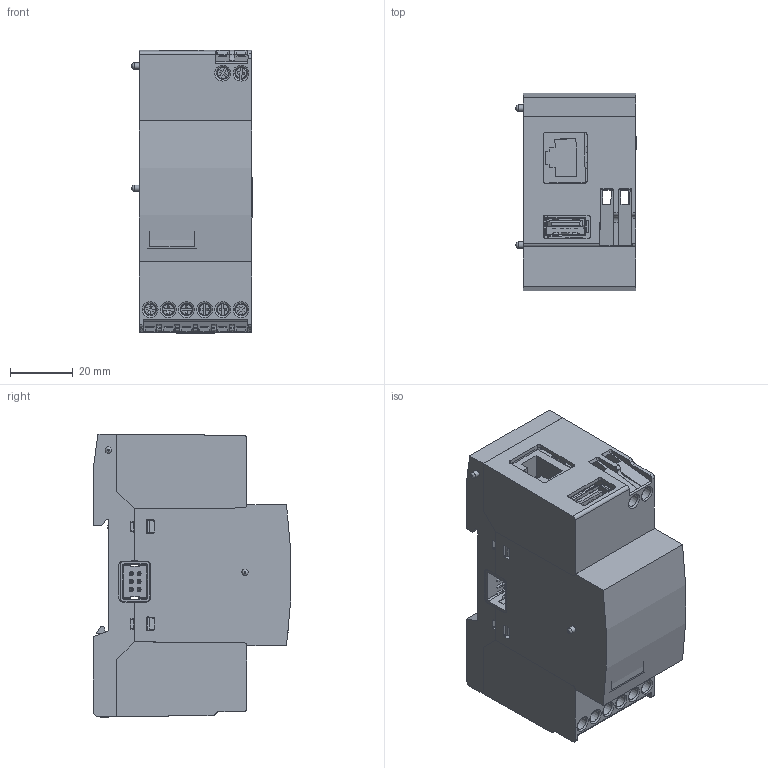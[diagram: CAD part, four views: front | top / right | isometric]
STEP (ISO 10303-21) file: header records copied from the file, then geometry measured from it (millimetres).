
FILE_DESCRIPTION(/* description */ (''),/* implementation_level */ '2;1');
FILE_NAME(/* name */ 'Z:\Meccanica\SH2WEB24\Shrinkwrap\SH2WEB24_Shrinkwrap_1.stp',/* time_stamp */ '2018-02-21T09:06:32+01:00',/* author */ ('ddecol'),/* organization */ (''),/* preprocessor_version */ 'ST-DEVELOPER v16.5',/* originating_system */ 'Autodesk Inventor 2017',/* authorisation */ '');
FILE_SCHEMA (('AUTOMOTIVE_DESIGN { 1 0 10303 214 3 1 1 }'));
Length unit declared in the file: millimetre
Products named in the file (1): SH2WEB24_Shrinkwrap_1
Bounding box: 38.34 x 63.01 x 90.42 mm (x, y, z)
Surface area: 32273.3 mm2 (no closed solid volume)
Topology: 0 solids, 59 shells, 968 faces, 3704 edges, 2737 vertices
Faces by surface type: plane 629, cylinder 273, bspline 38, torus 20, cone 8
Full cylindrical faces by diameter (mm): 2 x4, 2.2 x1, 3.2 x1
Entity records: 41189 total; most frequent: CARTESIAN_POINT 9703, DIRECTION 6225, ORIENTED_EDGE 5848, EDGE_CURVE 3678, LINE 2841, VECTOR 2841, VERTEX_POINT 2735, AXIS2_PLACEMENT_3D 1692
